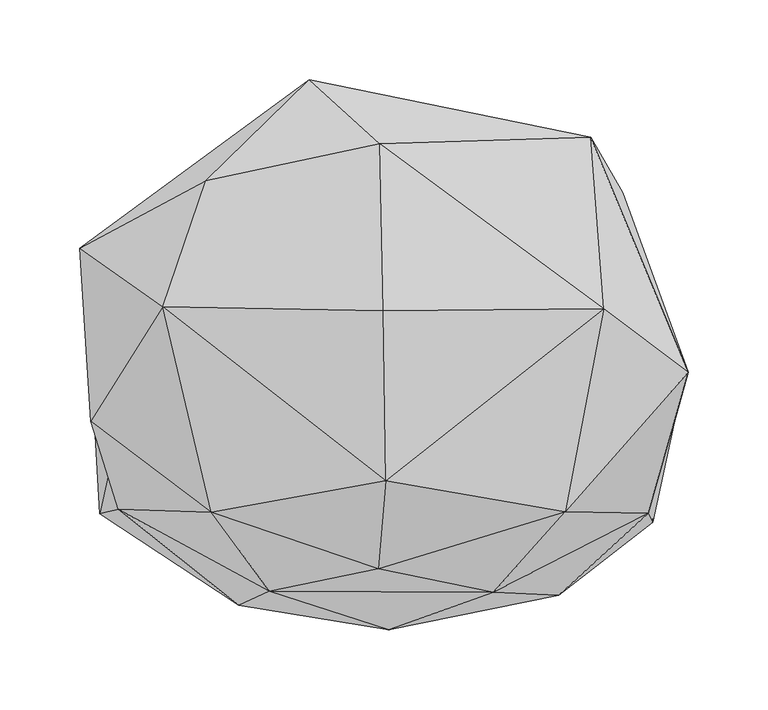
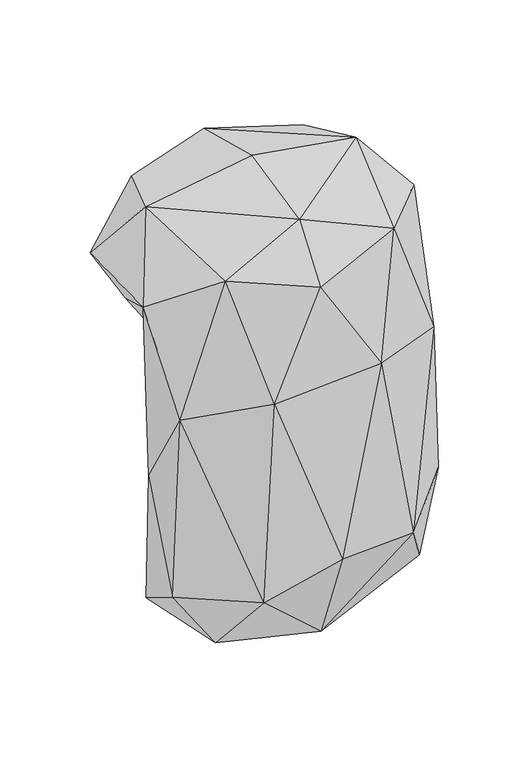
"""IFC4 building model written with IfcOpenShell, lengths in millimetres: geographic element geometry, Enscape AssetDefinition - Creeper Plant 015 Bower Vine : Enscape AssetDefinition - Creeper Plant 015 Bower Vine 3."""

from ifc_helpers import new_model, si_unit, origin, place, context, project, spatial, triangles, source, transform, mapped, element, save


def geographic_element_5fc5a5dc(model_context):
    return source(origin(), model_context, "Body", "Tessellation", [
        triangles([(-166.4360255, 0.0, 0.0), (166.4360255, 0.0, 0.0), (152.24663, 0.0, -122.4985457), (177.6457156, -34.5360438, -45.2821243), (-188.0496408, -33.7610684, 44.6674452), (-164.4655971, 47.158218, 0.0), (141.684266, 78.6510768, 0.0), (-120.7106189, 105.0021028, 0.0), (-195.0083912, 74.6664635, 57.0029387), (-116.012668, 117.0620044, 110.7425863), (-142.8747911, 38.0231265, 124.8425796), (-51.1588686, 180.2912481, 59.9665795), (-115.2265968, 120.5842185, 6.9963588), (133.335248, 36.8788513, 125.3771127), (-7.0499966, 140.1805696, 124.7920195), (-4.6954764, 35.4731641, 150.0000011), (-0.995076, 149.547467, 2.3674671), (-1.00679, 146.3926904, 0.0), (125.1607106, 144.1664183, 80.7207542), (145.4734606, 109.502137, 21.0420977), (8.5031527, 141.4000628, 0.0), (-10.705391, 141.6571419, 0.0), (109.2968352, -90.4532724, 84.909452), (186.4041381, -3.1695697, 65.5264373), (-3.2916425, -71.0283317, 124.890678), (-7.7929127, -126.2427122, 65.4789611), (64.0566324, -140.89388, -56.6028041), (161.3034173, -91.494597, -69.937696), (164.1634898, -97.0988334, -262.9639453), (105.2000104, -142.7539591, -305.4809541), (168.894124, -36.4596114, -367.5332348), (139.4962182, -96.6438284, -375.8132163), (109.4577447, 0.0, -390.1758207), (168.6586006, -32.3220891, -213.9395031), (52.1157233, -34.4515785, -453.3366457), (-1.2774458, -164.500733, -291.8205234), (4.8101505, -105.3985357, -429.7600325), (-185.6525851, -36.9090593, -358.4067933), (-129.5682723, 0.0, -378.4846375), (-109.6612116, -63.6657542, -431.0362264), (-22.5131312, 0.0, -434.9061573), (16.7911365, 0.0, -441.5301353), (-163.1554845, -3.9402301, -216.2736812), (132.5911074, 0.0, -220.6029227), (145.8680404, 0.0, -314.2948056), (-153.987712, 0.0, -360.2335713), (-170.8811757, -88.8484467, -85.1770229), (-95.3343244, -149.1380988, -328.8744753), (-182.3479903, -91.7282491, -325.5662107), (-112.5070862, -90.9218394, 89.1573305), (-76.3563586, -140.408063, -64.530745), (145.0733215, 0.0, -363.6441916)], [[44, 3, 34], [45, 44, 34], [34, 52, 45], [38, 46, 39], [25, 14, 16], [27, 26, 51], [51, 48, 36], [27, 51, 36], [51, 26, 50], [26, 25, 50], [48, 51, 47], [50, 47, 51], [48, 47, 49], [43, 38, 49], [38, 43, 46], [43, 49, 47], [39, 46, 43], [43, 45, 52], [43, 44, 45], [43, 3, 44], [43, 52, 33], [43, 33, 42], [43, 41, 39], [43, 42, 41], [39, 41, 40], [48, 49, 40], [38, 39, 40], [40, 49, 38], [48, 40, 37], [36, 48, 37], [41, 35, 40], [41, 42, 35], [35, 37, 40], [35, 42, 33], [34, 31, 52], [31, 33, 52], [31, 35, 33], [37, 35, 32], [31, 32, 35], [37, 30, 36], [32, 30, 37], [30, 27, 36], [32, 29, 30], [31, 29, 32], [34, 29, 31], [34, 4, 29], [4, 34, 3], [28, 27, 30], [28, 30, 29], [4, 28, 29], [23, 14, 25], [28, 23, 27], [25, 26, 23], [23, 26, 27], [4, 24, 28], [14, 23, 24], [23, 28, 24], [7, 8, 22], [22, 21, 7], [22, 18, 21], [20, 7, 21], [19, 24, 20], [24, 19, 14], [20, 21, 17], [17, 22, 8], [20, 17, 19], [17, 18, 22], [17, 21, 18], [17, 8, 13], [17, 13, 12], [12, 19, 17], [14, 15, 16], [19, 12, 15], [14, 19, 15], [11, 50, 25], [15, 11, 16], [11, 25, 16], [15, 10, 11], [10, 15, 12], [8, 9, 13], [9, 12, 13], [10, 12, 9], [10, 9, 11], [50, 5, 47], [47, 5, 43], [9, 5, 11], [50, 11, 5], [8, 6, 9], [5, 9, 6], [7, 6, 8], [5, 6, 1], [5, 1, 43], [7, 1, 6], [24, 4, 2], [4, 3, 2], [20, 2, 7], [20, 24, 2], [43, 2, 3], [43, 1, 2], [7, 2, 1]]),
    ])


if __name__ == "__main__":
    model = new_model("IFC4")
    model_context = context("Model", 3, world=origin())
    ifc_project = project(units=[si_unit("LENGTHUNIT", "METRE", prefix="MILLI")], contexts=[model_context])
    site = spatial("IfcSite", under=ifc_project)
    building = spatial("IfcBuilding", under=site)
    placement = place(None, origin())
    geographic_element_shape = geographic_element_5fc5a5dc(model_context)
    element("IfcGeographicElement", 1, ObjectType="Enscape AssetDefinition - Creeper Plant 015 Bower Vine : Enscape AssetDefinition - Creeper Plant 015 Bower Vine 3", at=placement, inside=building, context=model_context, shape_type="MappedRepresentation", body=[
        mapped(geographic_element_shape, transform((0.0, 0.0, 0.0), x_axis=(1.0, 0.0, 0.0), y_axis=(0.0, 1.0, 0.0), z_axis=(0.0, 0.0, 1.0))),
    ])
    save(model, "model.ifc")
